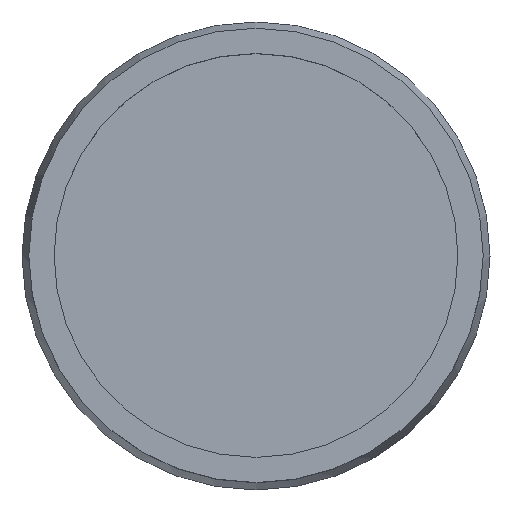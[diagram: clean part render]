
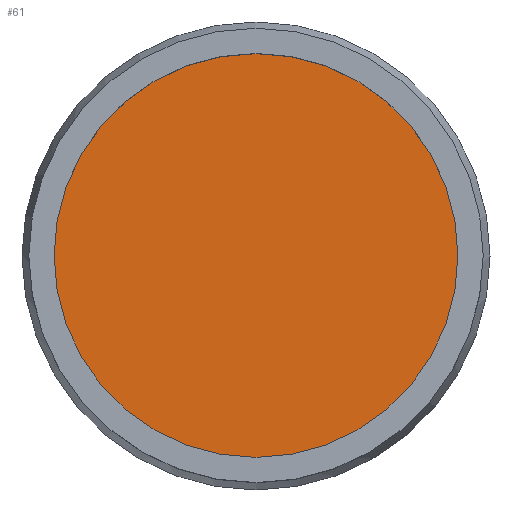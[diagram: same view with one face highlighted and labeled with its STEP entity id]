
A CAD part, top view. The second image highlights one B-rep face of the part: STEP entity #61.
In plain terms, the highlighted planar face has unit normal (0, 0, 1).
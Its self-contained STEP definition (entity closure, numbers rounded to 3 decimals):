
#61=ADVANCED_FACE('',(#135),#137,.F.);
#135=FACE_BOUND('',#136,.T.);
#136=EDGE_LOOP('',(#165));
#137=PLANE('',#138);
#138=AXIS2_PLACEMENT_3D('',#139,#140,#141);
#139=CARTESIAN_POINT('',(0.,0.,0.));
#140=DIRECTION('',(0.,0.,-1.));
#141=DIRECTION('',(-1.,0.,0.));
#165=ORIENTED_EDGE('',*,*,#174,.T.);
#174=EDGE_CURVE('',#190,#190,#191,.T.);
#190=VERTEX_POINT('',#229);
#191=CIRCLE('',#230,40.);
#229=CARTESIAN_POINT('',(-40.,0.,0.));
#230=AXIS2_PLACEMENT_3D('',#231,#232,#233);
#231=CARTESIAN_POINT('',(0.,0.,0.));
#232=DIRECTION('',(0.,0.,1.));
#233=DIRECTION('',(-1.,0.,0.));
